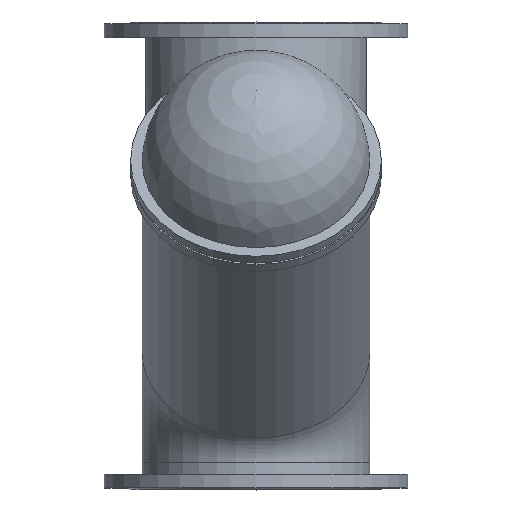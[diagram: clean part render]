
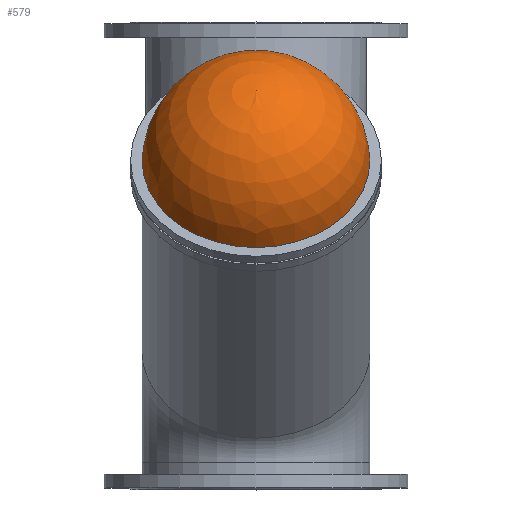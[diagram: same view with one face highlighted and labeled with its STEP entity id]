
A CAD part, top view. The second image highlights one B-rep face of the part: STEP entity #579.
In plain terms, the highlighted spherical face has radius 195.27 mm.
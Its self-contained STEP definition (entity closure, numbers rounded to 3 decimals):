
#579=ADVANCED_FACE('',(#1241),#1243,.T.);
#1241=FACE_OUTER_BOUND('',#1242,.T.);
#1242=EDGE_LOOP('',(#1457));
#1243=SPHERICAL_SURFACE('',#1244,195.27);
#1244=AXIS2_PLACEMENT_3D('',#1245,#1246,#1247);
#1245=CARTESIAN_POINT('',(0.,156.108,469.255));
#1246=DIRECTION('',(0.,0.643,0.766));
#1247=DIRECTION('',(0.,-0.766,0.643));
#1457=ORIENTED_EDGE('',*,*,#1562,.T.);
#1562=EDGE_CURVE('',#1767,#1767,#1768,.T.);
#1767=VERTEX_POINT('',#2673);
#1768=CIRCLE('',#2674,195.);
#2673=CARTESIAN_POINT('',(0.,13.331,602.466));
#2674=AXIS2_PLACEMENT_3D('',#2675,#2676,#2677);
#2675=CARTESIAN_POINT('',(0.,162.709,477.122));
#2676=DIRECTION('',(0.,0.643,0.766));
#2677=DIRECTION('',(0.,-0.766,0.643));
